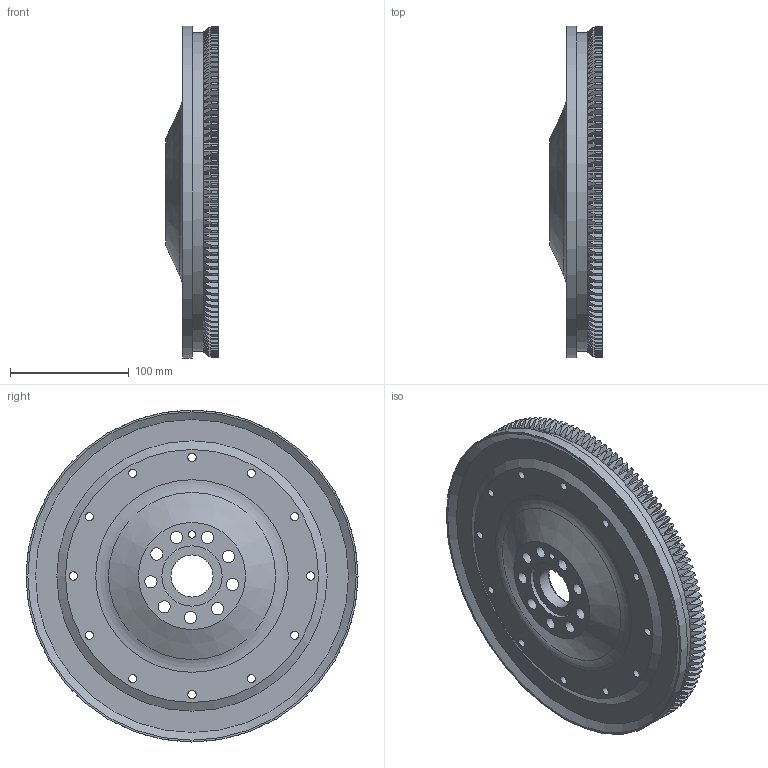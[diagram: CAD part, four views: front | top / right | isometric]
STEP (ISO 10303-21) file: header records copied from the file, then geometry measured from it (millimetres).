
FILE_DESCRIPTION(/* description */ ('Unknown'),/* implementation_level */ '2;1');
FILE_NAME(/* name */ 'TILTON FLYWHEEL, 51-4008 SIMPLE',/* time_stamp */ '2024-12-30T10:59:12-08:00',/* author */ ('Unknown'),/* organization */ ('Unknown'),/* preprocessor_version */ 'ST-DEVELOPER v18.104',/* originating_system */ 'Solid Edge',/* authorisation */ 'Unknown');
FILE_SCHEMA (('AUTOMOTIVE_DESIGN {1 0 10303 214 3 1 1}'));
Length unit declared in the file: millimetre
Products named in the file (1): TILTON FLYWHEEL, 51-4008 SIMPLE
Bounding box: 44.32 x 279.93 x 279.93 mm (x, y, z)
Volume: 622436.8 mm3; surface area: 177555.5 mm2
Topology: 1 solids, 1 shells, 709 faces, 2111 edges, 1413 vertices
Faces by surface type: plane 407, cylinder 159, cone 141, torus 2
Full cylindrical faces by diameter (mm): 6.038 x1, 6.917 x12, 10.3 x9, 35.56 x1, 50.8 x1, 212.776 x1, 268.964 x1, 279.933 x1
Entity records: 29109 total; most frequent: CARTESIAN_POINT 6130, ORIENTED_EDGE 4100, DIRECTION 3276, EDGE_CURVE 2050, VERTEX_POINT 1390, AXIS2_PLACEMENT_3D 1176, LINE 924, VECTOR 924
